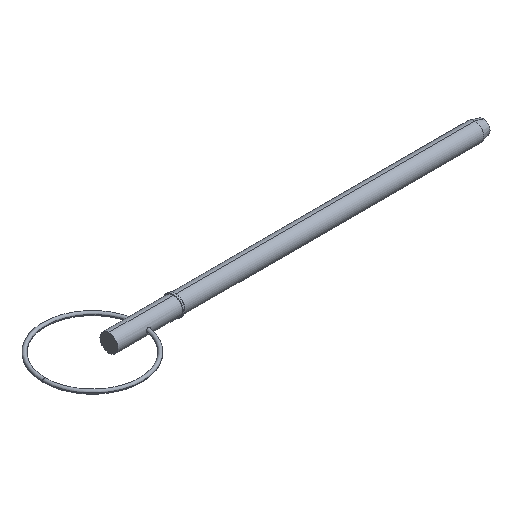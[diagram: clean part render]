
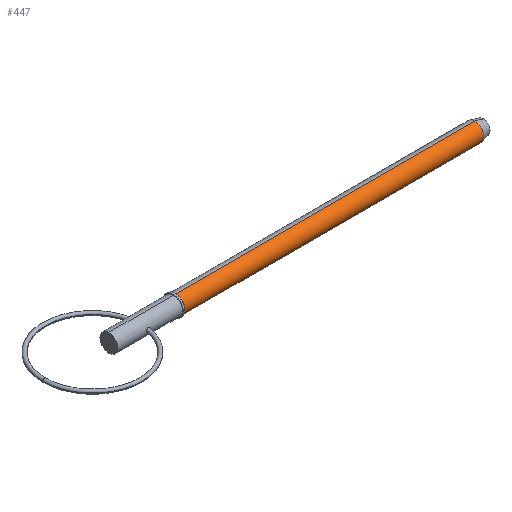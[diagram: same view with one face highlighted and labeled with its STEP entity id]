
A CAD part, isometric view. The second image highlights one B-rep face of the part: STEP entity #447.
In plain terms, the highlighted cylindrical face has radius 2.38 mm (diameter 4.76 mm), a partial arc.
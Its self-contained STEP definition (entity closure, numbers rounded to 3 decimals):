
#9 = VERTEX_POINT ( 'NONE', #193 ) ;
#21 = ORIENTED_EDGE ( 'NONE', *, *, #625, .T. ) ;
#30 = CARTESIAN_POINT ( 'NONE',  ( 96.509, 0., -2.38 ) ) ;
#88 = CARTESIAN_POINT ( 'NONE',  ( 0., 0., 2.38 ) ) ;
#120 = CARTESIAN_POINT ( 'NONE',  ( 96.509, 0., 2.38 ) ) ;
#140 = CARTESIAN_POINT ( 'NONE',  ( 0., 0., 0. ) ) ;
#143 = ORIENTED_EDGE ( 'NONE', *, *, #145, .F. ) ;
#145 = EDGE_CURVE ( 'NONE', #221, #767, #762, .T. ) ;
#181 = CARTESIAN_POINT ( 'NONE',  ( 96.509, 0., 0. ) ) ;
#193 = CARTESIAN_POINT ( 'NONE',  ( 17.45, 0., -2.38 ) ) ;
#221 = VERTEX_POINT ( 'NONE', #120 ) ;
#267 = DIRECTION ( 'NONE',  ( 1., 0., 0. ) ) ;
#270 = CARTESIAN_POINT ( 'NONE',  ( 17.45, 0., 0. ) ) ;
#277 = DIRECTION ( 'NONE',  ( 1., 0., 0. ) ) ;
#346 = EDGE_CURVE ( 'NONE', #564, #9, #390, .T. ) ;
#364 = EDGE_LOOP ( 'NONE', ( #756, #396, #21, #143 ) ) ;
#374 = VECTOR ( 'NONE', #592, 1000. ) ;
#390 = CIRCLE ( 'NONE', #473, 2.38 ) ;
#396 = ORIENTED_EDGE ( 'NONE', *, *, #346, .T. ) ;
#427 = DIRECTION ( 'NONE',  ( 0., 0., -1. ) ) ;
#447 = ADVANCED_FACE ( 'NONE', ( #947 ), #944, .T. ) ;
#448 = LINE ( 'NONE', #88, #539 ) ;
#472 = DIRECTION ( 'NONE',  ( 1., 0., 0. ) ) ;
#473 = AXIS2_PLACEMENT_3D ( 'NONE', #270, #267, #486 ) ;
#486 = DIRECTION ( 'NONE',  ( 0., 0., -1. ) ) ;
#532 = CARTESIAN_POINT ( 'NONE',  ( 17.45, 0., 2.38 ) ) ;
#539 = VECTOR ( 'NONE', #667, 1000. ) ;
#557 = AXIS2_PLACEMENT_3D ( 'NONE', #181, #472, #783 ) ;
#564 = VERTEX_POINT ( 'NONE', #532 ) ;
#592 = DIRECTION ( 'NONE',  ( 1., 0., 0. ) ) ;
#593 = EDGE_CURVE ( 'NONE', #564, #221, #448, .T. ) ;
#625 = EDGE_CURVE ( 'NONE', #9, #767, #763, .T. ) ;
#667 = DIRECTION ( 'NONE',  ( 1., 0., 0. ) ) ;
#756 = ORIENTED_EDGE ( 'NONE', *, *, #593, .F. ) ;
#762 = CIRCLE ( 'NONE', #557, 2.38 ) ;
#763 = LINE ( 'NONE', #834, #374 ) ;
#767 = VERTEX_POINT ( 'NONE', #30 ) ;
#783 = DIRECTION ( 'NONE',  ( 0., 0., -1. ) ) ;
#834 = CARTESIAN_POINT ( 'NONE',  ( 0., 0., -2.38 ) ) ;
#935 = AXIS2_PLACEMENT_3D ( 'NONE', #140, #277, #427 ) ;
#944 = CYLINDRICAL_SURFACE ( 'NONE', #935, 2.38 ) ;
#947 = FACE_OUTER_BOUND ( 'NONE', #364, .T. ) ;
